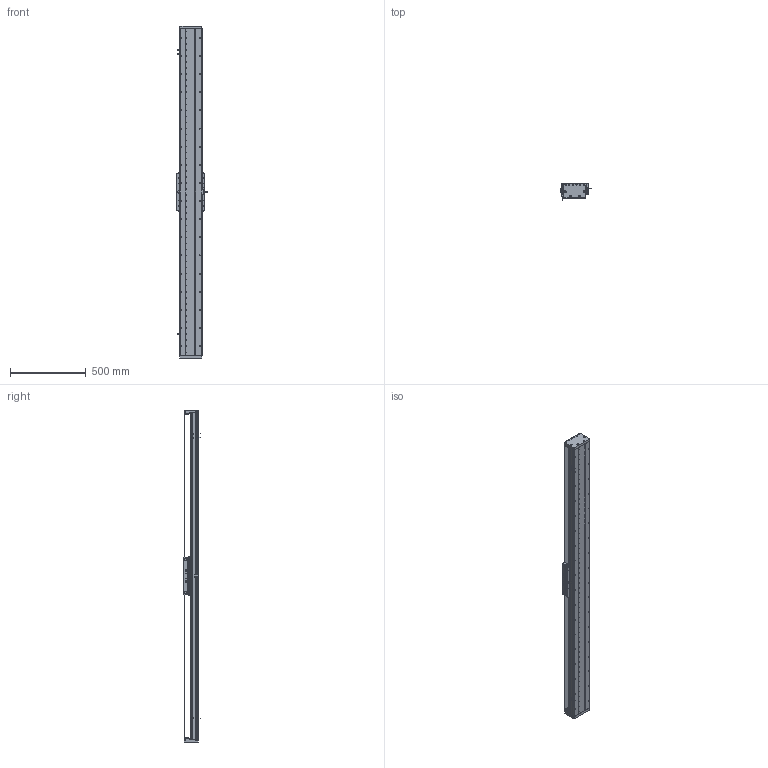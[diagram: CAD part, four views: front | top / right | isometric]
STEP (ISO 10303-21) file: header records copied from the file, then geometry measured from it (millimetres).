
FILE_DESCRIPTION (( 'STEP AP203' ), '1' );
FILE_NAME ('DA-C145-C3-T1860-C010-0.2 眻盄萇儂.STEP', '2025-08-14T01:29:03', ( '' ), ( '' ), 'SwSTEP 2.0', 'SolidWorks 2019', '' );
FILE_SCHEMA (( 'CONFIG_CONTROL_DESIGN' ));
Length unit declared in the file: millimetre
Products named in the file (32): 复件 DA145-C3-DK-00 挡块^CU145-W 滚珠滑台; CU145-W-00 珨极趙賑雄怢啣; 葩璃 CKMA01-W060-TRL^DA-C145-C3-T-C010-0.2; 葩璃 CKM03-W060-C1C2-TP-0.2^DA-C145-C3-T-C010-0.2; 复件 DA145-C3-YB-B-00 压板B^CU145-W 滚珠滑台; 66245-CU145-HT-W-00 賑雄怢啣(3D芞祧)(00); TAY01-M8; IU-CU145-L-00 菁釱(L2160); 复件 DA95-DB-00  挡板^CU145-W 滚珠滑台; 葩璃 DA145-C3-DP-B-00 菜えB^CU145-W 幗紩賑怢; CU145-W 幗紩賑怢; 复件 内六角平端紧定螺钉 GB.T77-2000 M5×10^CU145-W 滚珠滑台; 葩璃 DMA-010-0.2 黍杅芛^DA-C145-C3-T-C010-0.2; 复件 DA95-HK-GT-00 滑块钢轨^CU145-W-00 一体化滑动台板; DA-C145-C3-T1860-C010-0.2 眻盄萇儂; 复件 DA95-MFP-01 密封片^CU145-W 滚珠滑台; 葩璃 CU145 詩湍郪璃^DA-C145-C3-T-C010-0.2; 复件 DA146 钢带拉块^复件 CU145 钢带组件_DA-C145-C3-T-C010-0.2; 葩璃 PM-T45^DA-C145-C3-T-C010-0.2; IU-CU145-L 菁釱絳寢; 复件 纯铜油杯 6x6mm^CU145-W 滚珠滑台; 复件 DA145-GYP-00 光电感应片^DA-C145-C3-T-C010-0.2; 葩璃 DA95-GT-T-00^IU-CU145-L 菁釱絳寢; 复件 DA145-C3-YB-A-00 压板A^CU145-W 滚珠滑台; 复件 半圆头内六角螺钉 M3×6^CU145-W 滚珠滑台; 复件 DA145 钢带^复件 CU145 钢带组件_DA-C145-C3-T-C010-0.2; 葩璃 鞠褒情蹟譫 M3^DA-C145-C3-T-C010-0.2; 葩璃 DA95-HXJ-00 遣喳砎蝶^DA-C145-C3-T-C010-0.2; 葩璃 XD-U-02L 棠掑喜^DA-C145-C3-T-C010-0.2; 复件 DA146 钢带垫块^复件 CU145 钢带组件_DA-C145-C3-T-C010-0.2; 复件 DA145-DG 钢带端盖^复件 CU145 钢带组件_DA-C145-C3-T-C010-0.2; 葩璃 DA145-C3-DP-A-00 菜えA^CU145-W 幗紩賑怢
Assembly tree (103 placements, depth 4):
  DA-C145-C3-T1860-C010-0.2 眻盄萇儂
    IU-CU145-L 菁釱絳寢
      IU-CU145-L-00 菁釱(L2160)
      葩璃 DA95-GT-T-00^IU-CU145-L 菁釱絳寢  x4
    葩璃 CU145 詩湍郪璃^DA-C145-C3-T-C010-0.2
      复件 DA145-DG 钢带端盖^复件 CU145 钢带组件_DA-C145-C3-T-C010-0.2  x2
      复件 DA146 钢带拉块^复件 CU145 钢带组件_DA-C145-C3-T-C010-0.2  x2
      复件 DA146 钢带垫块^复件 CU145 钢带组件_DA-C145-C3-T-C010-0.2  x2
      复件 DA145 钢带^复件 CU145 钢带组件_DA-C145-C3-T-C010-0.2
    CU145-W 幗紩賑怢
      CU145-W-00 珨极趙賑雄怢啣
        66245-CU145-HT-W-00 賑雄怢啣(3D芞祧)(00)
        复件 DA95-HK-GT-00 滑块钢轨^CU145-W-00 一体化滑动台板  x8
      复件 DA95-MFP-01 密封片^CU145-W 滚珠滑台  x8
      复件 DA95-DB-00  挡板^CU145-W 滚珠滑台  x8
      复件 内六角平端紧定螺钉 GB.T77-2000 M5×10^CU145-W 滚珠滑台  x4
      复件 纯铜油杯 6x6mm^CU145-W 滚珠滑台  x4
      复件 半圆头内六角螺钉 M3×6^CU145-W 滚珠滑台  x16
      复件 DA145-C3-DK-00 挡块^CU145-W 滚珠滑台  x4
      葩璃 DA145-C3-DP-B-00 菜えB^CU145-W 幗紩賑怢  x2
      复件 DA145-C3-YB-B-00 压板B^CU145-W 滚珠滑台  x2
      葩璃 DA145-C3-DP-A-00 菜えA^CU145-W 幗紩賑怢  x3
      复件 DA145-C3-YB-A-00 压板A^CU145-W 滚珠滑台  x3
      TAY01-M8  x4
    葩璃 CKMA01-W060-TRL^DA-C145-C3-T-C010-0.2
    葩璃 PM-T45^DA-C145-C3-T-C010-0.2  x3
    葩璃 XD-U-02L 棠掑喜^DA-C145-C3-T-C010-0.2
    葩璃 DA95-HXJ-00 遣喳砎蝶^DA-C145-C3-T-C010-0.2  x4
    复件 DA145-GYP-00 光电感应片^DA-C145-C3-T-C010-0.2
    葩璃 DMA-010-0.2 黍杅芛^DA-C145-C3-T-C010-0.2
    葩璃 CKM03-W060-C1C2-TP-0.2^DA-C145-C3-T-C010-0.2
    葩璃 鞠褒情蹟譫 M3^DA-C145-C3-T-C010-0.2  x8
Bounding box: 203.5 x 108.45 x 2196 mm (x, y, z)
Volume: 10738976.2 mm3; surface area: 3525605.2 mm2
Topology: 99 solids, 131 shells, 4481 faces, 12548 edges, 7830 vertices
Faces by surface type: cylinder 2125, plane 1588, cone 690, torus 74, sphere 4
Entity records: 117298 total; most frequent: CARTESIAN_POINT 33558, ORIENTED_EDGE 16616, DIRECTION 16123, EDGE_CURVE 8308, AXIS2_PLACEMENT_3D 6050, VERTEX_POINT 5369, VECTOR 4023, LINE 4023
